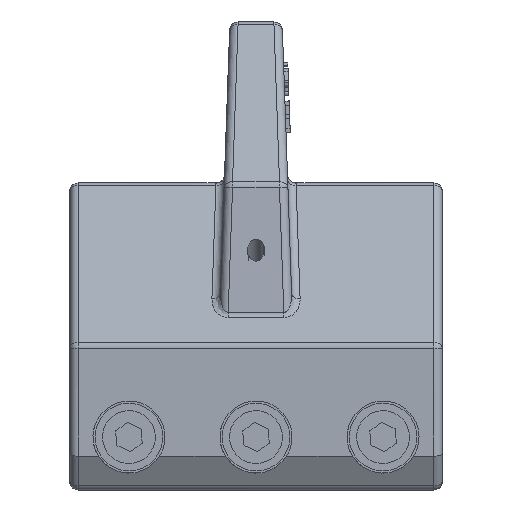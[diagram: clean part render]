
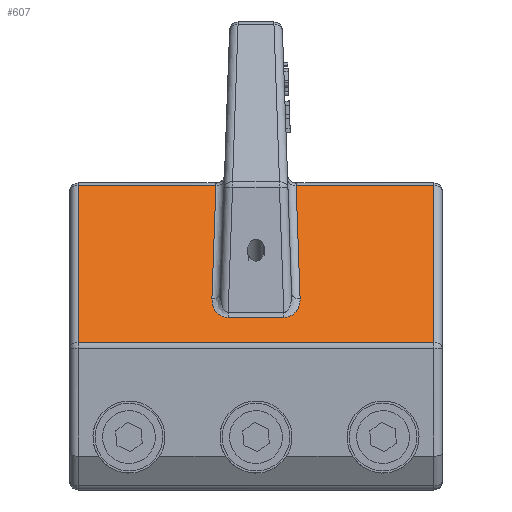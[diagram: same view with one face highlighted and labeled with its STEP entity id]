
A CAD part, front view. The second image highlights one B-rep face of the part: STEP entity #607.
In plain terms, the highlighted planar face has unit normal (0, -0.707, 0.707).
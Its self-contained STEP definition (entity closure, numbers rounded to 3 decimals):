
#249=CARTESIAN_POINT('Line Origine',(0.,-46.015,28.231)) ;
#253=CARTESIAN_POINT('Vertex',(-6.571,-46.015,28.231)) ;
#255=CARTESIAN_POINT('Vertex',(6.571,-46.015,28.231)) ;
#499=CARTESIAN_POINT('Axis2P3D Location',(0.,-51.914,22.332)) ;
#504=CARTESIAN_POINT('Line Origine',(9.94,-28.23,46.016)) ;
#508=CARTESIAN_POINT('Vertex',(10.408,-41.628,32.618)) ;
#510=CARTESIAN_POINT('Vertex',(9.472,-14.832,59.414)) ;
#514=CARTESIAN_POINT('Control Point',(6.571,-46.015,28.231)) ;
#515=CARTESIAN_POINT('Control Point',(6.809,-46.015,28.231)) ;
#516=CARTESIAN_POINT('Control Point',(7.048,-45.995,28.251)) ;
#517=CARTESIAN_POINT('Control Point',(7.281,-45.956,28.29)) ;
#518=CARTESIAN_POINT('Control Point',(7.761,-45.835,28.412)) ;
#519=CARTESIAN_POINT('Control Point',(8.191,-45.645,28.601)) ;
#520=CARTESIAN_POINT('Control Point',(8.403,-45.529,28.717)) ;
#521=CARTESIAN_POINT('Control Point',(8.934,-45.182,29.064)) ;
#522=CARTESIAN_POINT('Control Point',(9.35,-44.766,29.48)) ;
#523=CARTESIAN_POINT('Control Point',(9.572,-44.487,29.759)) ;
#524=CARTESIAN_POINT('Control Point',(9.931,-43.928,30.318)) ;
#525=CARTESIAN_POINT('Control Point',(10.168,-43.341,30.906)) ;
#526=CARTESIAN_POINT('Control Point',(10.257,-43.053,31.193)) ;
#527=CARTESIAN_POINT('Control Point',(10.359,-42.596,31.65)) ;
#528=CARTESIAN_POINT('Control Point',(10.404,-42.135,32.112)) ;
#529=CARTESIAN_POINT('Control Point',(10.412,-41.965,32.281)) ;
#530=CARTESIAN_POINT('Control Point',(10.414,-41.797,32.45)) ;
#531=CARTESIAN_POINT('Control Point',(10.408,-41.628,32.618)) ;
#534=CARTESIAN_POINT('Control Point',(-10.408,-41.628,32.618)) ;
#535=CARTESIAN_POINT('Control Point',(-10.419,-41.939,32.307)) ;
#536=CARTESIAN_POINT('Control Point',(-10.405,-42.25,31.996)) ;
#537=CARTESIAN_POINT('Control Point',(-10.366,-42.561,31.685)) ;
#538=CARTESIAN_POINT('Control Point',(-10.261,-43.054,31.192)) ;
#539=CARTESIAN_POINT('Control Point',(-10.084,-43.537,30.709)) ;
#540=CARTESIAN_POINT('Control Point',(-10.008,-43.717,30.53)) ;
#541=CARTESIAN_POINT('Control Point',(-9.809,-44.118,30.129)) ;
#542=CARTESIAN_POINT('Control Point',(-9.549,-44.503,29.744)) ;
#543=CARTESIAN_POINT('Control Point',(-9.383,-44.711,29.535)) ;
#544=CARTESIAN_POINT('Control Point',(-9.043,-45.072,29.174)) ;
#545=CARTESIAN_POINT('Control Point',(-8.622,-45.391,28.855)) ;
#546=CARTESIAN_POINT('Control Point',(-8.417,-45.522,28.724)) ;
#547=CARTESIAN_POINT('Control Point',(-7.961,-45.762,28.484)) ;
#548=CARTESIAN_POINT('Control Point',(-7.438,-45.926,28.32)) ;
#549=CARTESIAN_POINT('Control Point',(-7.155,-45.985,28.261)) ;
#550=CARTESIAN_POINT('Control Point',(-6.863,-46.015,28.231)) ;
#551=CARTESIAN_POINT('Control Point',(-6.571,-46.015,28.231)) ;
#552=CARTESIAN_POINT('Vertex',(-10.408,-41.628,32.618)) ;
#555=CARTESIAN_POINT('Line Origine',(-9.94,-28.23,46.016)) ;
#559=CARTESIAN_POINT('Vertex',(-9.472,-14.832,59.414)) ;
#562=CARTESIAN_POINT('Line Origine',(-25.736,-14.832,59.414)) ;
#566=CARTESIAN_POINT('Vertex',(-42.,-14.832,59.414)) ;
#569=CARTESIAN_POINT('Line Origine',(-42.,-33.373,40.873)) ;
#573=CARTESIAN_POINT('Vertex',(-42.,-51.914,22.332)) ;
#576=CARTESIAN_POINT('Line Origine',(0.,-51.914,22.332)) ;
#580=CARTESIAN_POINT('Vertex',(42.,-51.914,22.332)) ;
#583=CARTESIAN_POINT('Line Origine',(42.,-33.373,40.873)) ;
#587=CARTESIAN_POINT('Vertex',(42.,-14.832,59.414)) ;
#590=CARTESIAN_POINT('Line Origine',(25.736,-14.832,59.414)) ;
#250=DIRECTION('Vector Direction',(-1.,0.,0.)) ;
#500=DIRECTION('Axis2P3D Direction',(0.,0.707,-0.707)) ;
#501=DIRECTION('Axis2P3D XDirection',(0.,0.707,0.707)) ;
#505=DIRECTION('Vector Direction',(0.025,-0.707,-0.707)) ;
#556=DIRECTION('Vector Direction',(-0.025,-0.707,-0.707)) ;
#563=DIRECTION('Vector Direction',(1.,0.,0.)) ;
#570=DIRECTION('Vector Direction',(0.,0.707,0.707)) ;
#577=DIRECTION('Vector Direction',(1.,0.,0.)) ;
#584=DIRECTION('Vector Direction',(0.,-0.707,-0.707)) ;
#591=DIRECTION('Vector Direction',(1.,0.,0.)) ;
#502=AXIS2_PLACEMENT_3D('Plane Axis2P3D',#499,#500,#501) ;
#596=ORIENTED_EDGE('',*,*,#512,.F.) ;
#597=ORIENTED_EDGE('',*,*,#532,.F.) ;
#598=ORIENTED_EDGE('',*,*,#257,.F.) ;
#599=ORIENTED_EDGE('',*,*,#554,.F.) ;
#600=ORIENTED_EDGE('',*,*,#561,.F.) ;
#601=ORIENTED_EDGE('',*,*,#568,.F.) ;
#602=ORIENTED_EDGE('',*,*,#575,.T.) ;
#603=ORIENTED_EDGE('',*,*,#582,.T.) ;
#604=ORIENTED_EDGE('',*,*,#589,.F.) ;
#605=ORIENTED_EDGE('',*,*,#594,.F.) ;
#251=VECTOR('Line Direction',#250,1.) ;
#506=VECTOR('Line Direction',#505,1.) ;
#557=VECTOR('Line Direction',#556,1.) ;
#564=VECTOR('Line Direction',#563,1.) ;
#571=VECTOR('Line Direction',#570,1.) ;
#578=VECTOR('Line Direction',#577,1.) ;
#585=VECTOR('Line Direction',#584,1.) ;
#592=VECTOR('Line Direction',#591,1.) ;
#607=ADVANCED_FACE('Seitenanbindung Rippe aussen SW80',(#606),#503,.F.) ;
#513=B_SPLINE_CURVE_WITH_KNOTS('',5,(#514,#515,#516,#517,#518,#519,#520,#521,#522,#523,#524,#525,#526,#527,#528,#529,#530,#531),.UNSPECIFIED.,.F.,.U.,(6,3,3,3,3,6),(0.,1.649,3.514,6.705,9.677,11.389),.UNSPECIFIED.) ;
#533=B_SPLINE_CURVE_WITH_KNOTS('',5,(#534,#535,#536,#537,#538,#539,#540,#541,#542,#543,#544,#545,#546,#547,#548,#549,#550,#551),.UNSPECIFIED.,.F.,.U.,(6,3,3,3,3,6),(0.,3.154,5.04,7.437,9.368,11.387),.UNSPECIFIED.) ;
#257=EDGE_CURVE('',#254,#256,#252,.F.) ;
#512=EDGE_CURVE('',#509,#511,#507,.F.) ;
#532=EDGE_CURVE('',#256,#509,#513,.T.) ;
#554=EDGE_CURVE('',#553,#254,#533,.T.) ;
#561=EDGE_CURVE('',#560,#553,#558,.T.) ;
#568=EDGE_CURVE('',#567,#560,#565,.T.) ;
#575=EDGE_CURVE('',#567,#574,#572,.F.) ;
#582=EDGE_CURVE('',#574,#581,#579,.T.) ;
#589=EDGE_CURVE('',#588,#581,#586,.T.) ;
#594=EDGE_CURVE('',#511,#588,#593,.T.) ;
#595=EDGE_LOOP('',(#596,#597,#598,#599,#600,#601,#602,#603,#604,#605)) ;
#606=FACE_OUTER_BOUND('',#595,.T.) ;
#252=LINE('Line',#249,#251) ;
#507=LINE('Line',#504,#506) ;
#558=LINE('Line',#555,#557) ;
#565=LINE('Line',#562,#564) ;
#572=LINE('Line',#569,#571) ;
#579=LINE('Line',#576,#578) ;
#586=LINE('Line',#583,#585) ;
#593=LINE('Line',#590,#592) ;
#503=PLANE('',#502) ;
#254=VERTEX_POINT('',#253) ;
#256=VERTEX_POINT('',#255) ;
#509=VERTEX_POINT('',#508) ;
#511=VERTEX_POINT('',#510) ;
#553=VERTEX_POINT('',#552) ;
#560=VERTEX_POINT('',#559) ;
#567=VERTEX_POINT('',#566) ;
#574=VERTEX_POINT('',#573) ;
#581=VERTEX_POINT('',#580) ;
#588=VERTEX_POINT('',#587) ;
